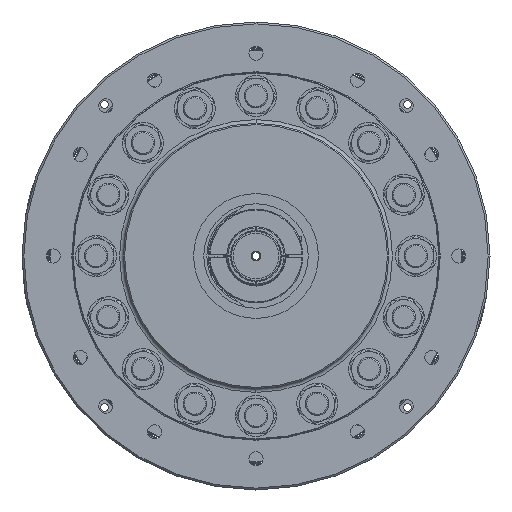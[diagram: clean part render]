
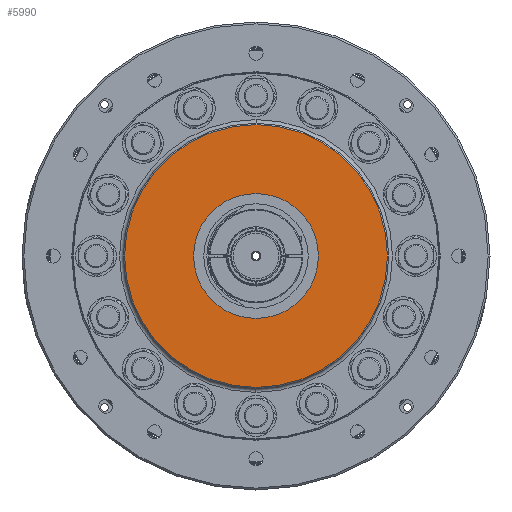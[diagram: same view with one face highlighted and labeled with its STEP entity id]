
A CAD part, left-side view. The second image highlights one B-rep face of the part: STEP entity #5990.
In plain terms, the highlighted planar face has unit normal (-1, 0, 0).
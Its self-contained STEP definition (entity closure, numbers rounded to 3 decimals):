
#1143 = DIRECTION ( 'NONE',  ( -1., 0., 0. ) ) ;
#2203 = DIRECTION ( 'NONE',  ( 1., 0., 0. ) ) ;
#2411 = CARTESIAN_POINT ( 'NONE',  ( 0., 0., 106.934 ) ) ;
#2748 = VERTEX_POINT ( 'NONE', #30524 ) ;
#3342 = VERTEX_POINT ( 'NONE', #2411 ) ;
#3579 = CARTESIAN_POINT ( 'NONE',  ( 0., 0., 0. ) ) ;
#3847 = AXIS2_PLACEMENT_3D ( 'NONE', #15055, #1143, #22206 ) ;
#5112 = EDGE_CURVE ( 'NONE', #43341, #17835, #8940, .T. ) ;
#5990 = ADVANCED_FACE ( 'NONE', ( #23452, #44264 ), #33515, .F. ) ;
#7212 = AXIS2_PLACEMENT_3D ( 'NONE', #8277, #19043, #40109 ) ;
#8277 = CARTESIAN_POINT ( 'NONE',  ( 0., 0., 0. ) ) ;
#8940 = CIRCLE ( 'NONE', #3847, 50.8 ) ;
#10543 = AXIS2_PLACEMENT_3D ( 'NONE', #3579, #31481, #17725 ) ;
#11104 = ORIENTED_EDGE ( 'NONE', *, *, #34949, .T. ) ;
#11515 = CARTESIAN_POINT ( 'NONE',  ( 0., 0., 0. ) ) ;
#13129 = CARTESIAN_POINT ( 'NONE',  ( 0., 106.934, 0. ) ) ;
#15055 = CARTESIAN_POINT ( 'NONE',  ( 0., 0., 0. ) ) ;
#16618 = EDGE_LOOP ( 'NONE', ( #11104, #19813 ) ) ;
#16697 = CARTESIAN_POINT ( 'NONE',  ( 0., 0., 50.8 ) ) ;
#17725 = DIRECTION ( 'NONE',  ( 0., 0., 1. ) ) ;
#17835 = VERTEX_POINT ( 'NONE', #16697 ) ;
#19043 = DIRECTION ( 'NONE',  ( -1., 0., 0. ) ) ;
#19813 = ORIENTED_EDGE ( 'NONE', *, *, #22666, .T. ) ;
#20129 = EDGE_LOOP ( 'NONE', ( #25415, #40993 ) ) ;
#22206 = DIRECTION ( 'NONE',  ( 0., 0., 1. ) ) ;
#22666 = EDGE_CURVE ( 'NONE', #3342, #2748, #27028, .T. ) ;
#23452 = FACE_BOUND ( 'NONE', #20129, .T. ) ;
#25214 = AXIS2_PLACEMENT_3D ( 'NONE', #13129, #2203, #33306 ) ;
#25415 = ORIENTED_EDGE ( 'NONE', *, *, #44195, .F. ) ;
#25499 = DIRECTION ( 'NONE',  ( -1., 0., 0. ) ) ;
#27028 = CIRCLE ( 'NONE', #7212, 106.934 ) ;
#30409 = CARTESIAN_POINT ( 'NONE',  ( 0., 0., -50.8 ) ) ;
#30524 = CARTESIAN_POINT ( 'NONE',  ( 0., 0., -106.934 ) ) ;
#31109 = CIRCLE ( 'NONE', #43574, 106.934 ) ;
#31481 = DIRECTION ( 'NONE',  ( -1., 0., 0. ) ) ;
#33306 = DIRECTION ( 'NONE',  ( 0., 0., -1. ) ) ;
#33515 = PLANE ( 'NONE',  #25214 ) ;
#34949 = EDGE_CURVE ( 'NONE', #2748, #3342, #31109, .T. ) ;
#38311 = CIRCLE ( 'NONE', #10543, 50.8 ) ;
#39441 = DIRECTION ( 'NONE',  ( 0., 0., 1. ) ) ;
#40109 = DIRECTION ( 'NONE',  ( 0., 0., 1. ) ) ;
#40993 = ORIENTED_EDGE ( 'NONE', *, *, #5112, .F. ) ;
#43341 = VERTEX_POINT ( 'NONE', #30409 ) ;
#43574 = AXIS2_PLACEMENT_3D ( 'NONE', #11515, #25499, #39441 ) ;
#44195 = EDGE_CURVE ( 'NONE', #17835, #43341, #38311, .T. ) ;
#44264 = FACE_OUTER_BOUND ( 'NONE', #16618, .T. ) ;
